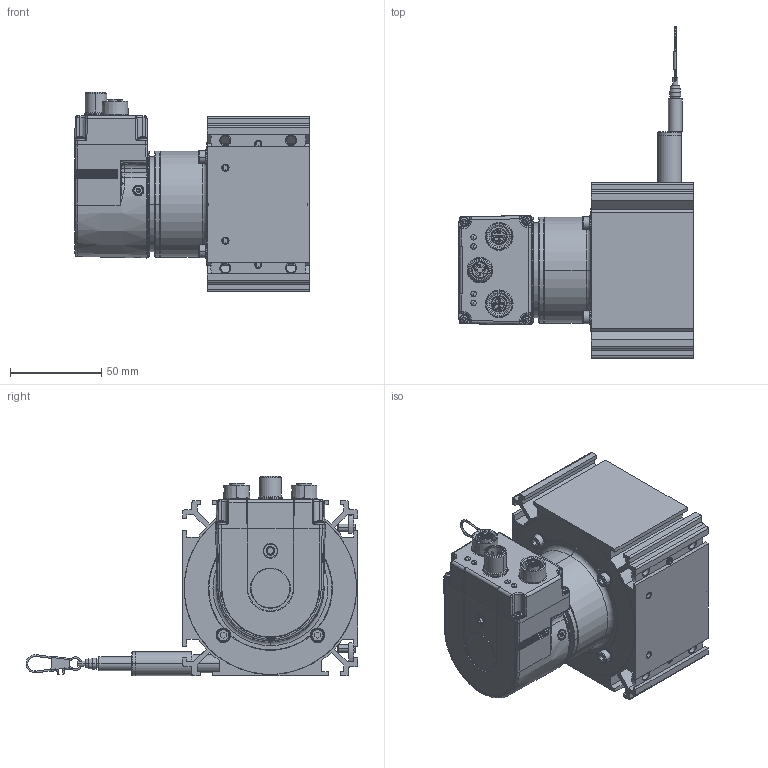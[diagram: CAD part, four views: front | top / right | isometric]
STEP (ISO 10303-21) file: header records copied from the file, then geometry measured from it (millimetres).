
FILE_DESCRIPTION((''),'2;1');
FILE_NAME('WDS-3000-P96-BH-PN_02_ASM','2024-05-24T07:59:36',('15000597'),(''),'CREO PARAMETRIC BY PTC INC, 2022164','CREO PARAMETRIC BY PTC INC, 2022164','');
FILE_SCHEMA(('AUTOMOTIVE_DESIGN { 1 0 10303 214 1 1 1 1 }'));
Products named in the file (21): TELESO_SENZORU_3M_P96_CER_ELOX_AF0; ADAPTER_3M_P96_AF0; SROUB_ISO4026_STAV_HEX_M4X5_AF0; SROUB_ISO4026_STAV_HEX_M4X5_AF1; SROUB_ISO4026_STAV_HEX_M4X5_AF2; SROUB_ISO4026_STAV_HEX_M4X5_AF3; VIKO_SENZORU_P96_CERNY_ELOX; TRUBKA_PRUCHODKY_2I5M_P96_AF0; PL_VYOSENA_P96_P115; PRIRUBA_SYNCHRO_P96_P200; PODLOZKA_M4_VEJIROVA; SROUB_ISO4762_VALC_HEX_M4X6; LANKO_7X7_0I63_0I8_AF0; GP_7I5X2I0X18_EXT_EPDM60; KARABINKA_SPECIALNI; UPEVNOVACI_MATICE_P96_M_IVO_AF0; UPEVNOVACI_MATICE_P96_M_IVO_AF1; SROUB_ISO4029_STAV_HEX_M4X10_AF0; SROUB_ISO4029_STAV_HEX_M4X10_AF1; BAU_SYNCHRO_PN_EAL580-SV6I4WPT; WDS-3000-P96-BH-PN_02_ASM
Assembly tree (26 placements, depth 2):
  WDS-3000-P96-BH-PN_02_ASM
    TELESO_SENZORU_3M_P96_CER_ELOX_AF0
    ADAPTER_3M_P96_AF0
    SROUB_ISO4026_STAV_HEX_M4X5_AF0
    SROUB_ISO4026_STAV_HEX_M4X5_AF1
    SROUB_ISO4026_STAV_HEX_M4X5_AF2
    SROUB_ISO4026_STAV_HEX_M4X5_AF3
    VIKO_SENZORU_P96_CERNY_ELOX
    TRUBKA_PRUCHODKY_2I5M_P96_AF0
    PL_VYOSENA_P96_P115
    PRIRUBA_SYNCHRO_P96_P200
    PODLOZKA_M4_VEJIROVA  x4
    SROUB_ISO4762_VALC_HEX_M4X6  x4
    LANKO_7X7_0I63_0I8_AF0
    GP_7I5X2I0X18_EXT_EPDM60
    KARABINKA_SPECIALNI
    UPEVNOVACI_MATICE_P96_M_IVO_AF0
    UPEVNOVACI_MATICE_P96_M_IVO_AF1
    SROUB_ISO4029_STAV_HEX_M4X10_AF0
    SROUB_ISO4029_STAV_HEX_M4X10_AF1
    BAU_SYNCHRO_PN_EAL580-SV6I4WPT
Bounding box: 128.6 x 181.99 x 109.4 mm (x, y, z)
Volume: 351740.1 mm3; surface area: 145118 mm2
Topology: 26 solids, 50 shells, 2168 faces, 5658 edges, 3586 vertices
Faces by surface type: plane 1066, cylinder 548, cone 233, torus 195, bspline 74, sphere 36, revolution 16
Entity records: 89274 total; most frequent: CARTESIAN_POINT 25341, DIRECTION 9863, ORIENTED_EDGE 9644, EDGE_CURVE 4864, AXIS2_PLACEMENT_3D 3636, VERTEX_POINT 3100, PRESENTATION_STYLE_ASSIGNMENT 2821, STYLED_ITEM 2817
